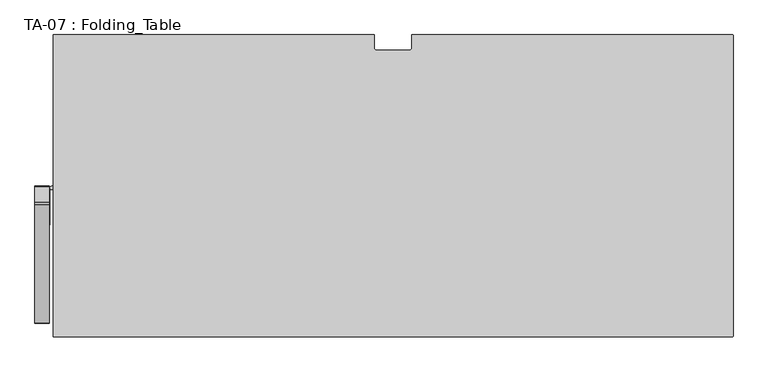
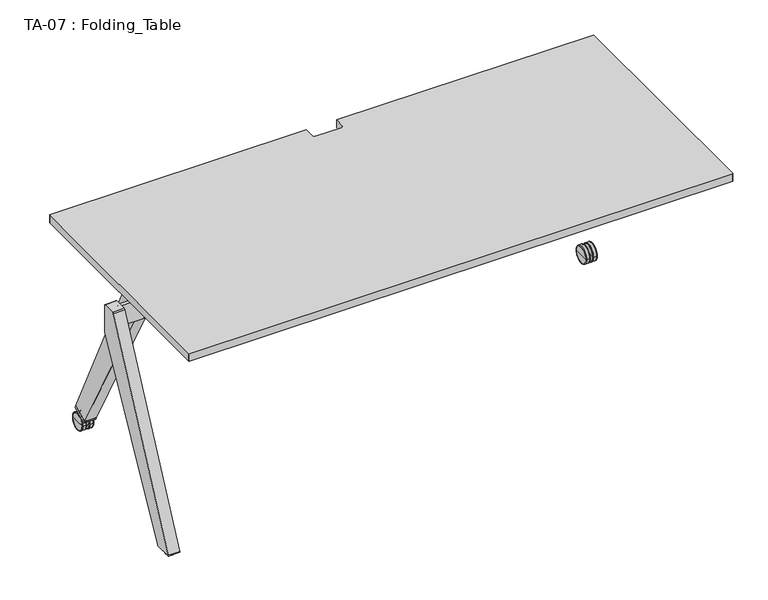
"""IFC4 building model written with IfcOpenShell, lengths in millimetres: furniture geometry, TA-07 : Folding_Table."""

from ifc_helpers import new_model, si_unit, point, frame, frame_2d, origin, place, context, project, spatial, polyline, circle_curve, ellipse_curve, trimmed, segment, composite_curve, outline, extrude, source, transform, mapped, element, save
from ifc_brep_helpers import plane_surface, cylinder_surface, revolved_surface, extruded_surface, spline_curve, advanced_brep


def ta_07_folding_table_06ad0b25(model_context):
    return source(origin(), model_context, "Body", "SolidModel", [
        extrude(outline(composite_curve([segment(trimmed(circle_curve(frame_2d((-43.5020447, 765.9866333)), 6.4993286), [point((-50.0013733, 765.9866333))], [point((-43.5020447, 759.4873047))], True, "CARTESIAN"), True, "CONTINUOUS"), segment(polyline([(-43.5020447, 759.4873047), (43.4996033, 759.4873047)]), True, "CONTINUOUS"), segment(trimmed(circle_curve(frame_2d((43.4996033, 765.9863281)), 6.4990234), [point((43.4996033, 759.4873047))], [point((49.9986267, 765.9863281))], True, "CARTESIAN"), True, "CONTINUOUS"), segment(polyline([(49.9986267, 765.9863281), (49.9986267, 800.0), (898.4629339, 800.0)]), True, "CONTINUOUS"), segment(trimmed(circle_curve(frame_2d((898.4629339, 798.4643072)), 1.5356928), [point((898.4629339, 800.0))], [point((899.9986267, 798.4643072))], False, "CARTESIAN"), True, "CONTINUOUS"), segment(polyline([(899.9986267, 798.4643072), (899.9986267, 1.5238076)]), True, "CONTINUOUS"), segment(trimmed(circle_curve(frame_2d((898.4748191, 1.5238076)), 1.5238076), [point((899.9986267, 1.5238076))], [point((898.4748191, 0.0))], False, "CARTESIAN"), True, "CONTINUOUS"), segment(polyline([(898.4748191, 0.0), (-898.455354, 0.0)]), True, "CONTINUOUS"), segment(trimmed(circle_curve(frame_2d((-898.455354, 1.5460193)), 1.5460193), [point((-898.455354, 0.0))], [point((-900.0013733, 1.5460193))], False, "CARTESIAN"), True, "CONTINUOUS"), segment(polyline([(-900.0013733, 1.5460193), (-900.0013733, 798.5330231)]), True, "CONTINUOUS"), segment(trimmed(circle_curve(frame_2d((-898.5343964, 798.5330231)), 1.4669769), [point((-900.0013733, 798.5330231))], [point((-898.5343964, 800.0))], False, "CARTESIAN"), True, "CONTINUOUS"), segment(polyline([(-898.5343964, 800.0), (-50.0013733, 800.0), (-50.0013733, 765.9866333)]), True, "CONTINUOUS")], self_intersect=False)), frame((0.0, 0.0, 694.5959473), z_axis=(0.0, 0.0, 1.0), x_axis=(1.0, 0.0, 0.0)), (0.0, 0.0, 1.0), 26.6889191),
        advanced_brep(
        [(-851.9981384, 750.0700684, 28.801899), (-837.8330994, 750.0700684, 28.801899), (-837.8330994, 696.0700684, 28.801899), (-851.9981384, 696.0700684, 28.801899), (-851.9981384, 723.0700684, 28.801899), (-837.8330994, 723.0700684, 28.801899)],
        [
            (0, 1),
            (1, 2, circle_curve(frame((-837.8330994, 723.0700684, 28.801899), z_axis=(-1.0, 0.0, 0.0), x_axis=(0.0, -1.0, 0.0)), 27.0)),
            (2, 3),
            (3, 0, circle_curve(frame((-851.9981384, 723.0700684, 28.801899), z_axis=(1.0, 0.0, 0.0), x_axis=(0.0, -1.0, 0.0)), 27.0)),
            (2, 1, circle_curve(frame((-837.8330994, 723.0700684, 28.801899), z_axis=(-1.0, 0.0, 0.0), x_axis=(0.0, -1.0, 0.0)), 27.0)),
            (0, 3, circle_curve(frame((-851.9981384, 723.0700684, 28.801899), z_axis=(1.0, 0.0, 0.0), x_axis=(0.0, -1.0, 0.0)), 27.0)),
            (4, 0),
            (3, 4),
            (1, 5),
            (5, 2),
        ],
        [
            cylinder_surface(frame((-851.9981384, 723.0700684, 28.801899), z_axis=(-1.0, 0.0, 0.0), x_axis=(0.0, -1.0, 0.0)), 27.0),
            plane_surface(frame((-851.9981384, 723.0700684, 28.801899), z_axis=(-1.0, 0.0, 0.0), x_axis=(0.0, -1.0, 0.0))),
            plane_surface(frame((-837.8330994, 723.0700684, 28.801899), z_axis=(1.0, 0.0, 0.0), x_axis=(0.0, -1.0, 0.0))),
        ],
        [
            (0, [[1, 2, 3, 4]]),
            (0, [[-3, 5, -1, 6]]),
            (1, [[7, -4, 8]]),
            (1, [[-8, -6, -7]]),
            (2, [[9, 10, -2]]),
            (2, [[-10, -9, -5]]),
        ],
    ),
        advanced_brep(
        [(-828.1639099, 750.0700684, 28.801899), (-813.9988708, 750.0700684, 28.801899), (-813.9988708, 696.0700684, 28.801899), (-828.1639099, 696.0700684, 28.801899), (-813.9988708, 723.0700684, 28.801899), (-828.1639099, 723.0700684, 28.801899)],
        [
            (0, 1),
            (1, 2, circle_curve(frame((-813.9988708, 723.0700684, 28.801899), z_axis=(-1.0, 0.0, 0.0), x_axis=(0.0, -1.0, 0.0)), 27.0)),
            (2, 3),
            (3, 0, circle_curve(frame((-828.1639099, 723.0700684, 28.801899), z_axis=(1.0, 0.0, 0.0), x_axis=(0.0, -1.0, 0.0)), 27.0)),
            (2, 1, circle_curve(frame((-813.9988708, 723.0700684, 28.801899), z_axis=(-1.0, 0.0, 0.0), x_axis=(0.0, -1.0, 0.0)), 27.0)),
            (0, 3, circle_curve(frame((-828.1639099, 723.0700684, 28.801899), z_axis=(1.0, 0.0, 0.0), x_axis=(0.0, -1.0, 0.0)), 27.0)),
            (1, 4),
            (4, 2),
            (5, 0),
            (3, 5),
        ],
        [
            cylinder_surface(frame((-813.9988708, 723.0700684, 28.801899), z_axis=(-1.0, 0.0, 0.0), x_axis=(0.0, -1.0, 0.0)), 27.0),
            plane_surface(frame((-813.9988708, 723.0700684, 28.801899), z_axis=(1.0, 0.0, 0.0), x_axis=(0.0, -1.0, 0.0))),
            plane_surface(frame((-828.1639099, 723.0700684, 28.801899), z_axis=(-1.0, 0.0, 0.0), x_axis=(0.0, -1.0, 0.0))),
        ],
        [
            (0, [[1, 2, 3, 4]]),
            (0, [[-3, 5, -1, 6]]),
            (1, [[7, 8, -2]]),
            (1, [[-8, -7, -5]]),
            (2, [[9, -4, 10]]),
            (2, [[-10, -6, -9]]),
        ],
    ),
        advanced_brep(
        [(-815.9983826, 752.2741699, 28.801899), (-813.9988708, 750.2574921, 28.801899), (-813.9988708, 695.8826447, 28.801899), (-815.9983826, 693.8659668, 28.801899), (-828.1639099, 750.2574921, 28.801899), (-828.1639099, 695.8826447, 28.801899), (-828.1639099, 751.1105391, 28.801899), (-828.1639099, 695.0295977, 28.801899), (-827.0002791, 752.2741699, 28.801899), (-827.0002791, 693.8659668, 28.801899)],
        [
            (0, 1, spline_curve(3, [(-815.9983826, 752.2741699, 28.801899), (-814.861767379, 752.04351573, 28.801899), (-814.195263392, 751.371289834, 28.801899), (-813.9988708, 750.2574921, 28.801899)], [4, 4], [0.0, 0.005636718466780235])),
            (1, 2, circle_curve(frame((-813.9988708, 723.0700684, 28.801899), z_axis=(-1.0, 0.0, 0.0), x_axis=(0.0, -1.0, 0.0)), 27.1874237)),
            (2, 3, spline_curve(3, [(-813.9988708, 695.8826447, 28.801899), (-814.195263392, 694.768846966, 28.801899), (-814.861767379, 694.09662097, 28.801899), (-815.9983826, 693.8659668, 28.801899)], [4, 4], [0.0, 0.005636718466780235])),
            (3, 0, circle_curve(frame((-815.9983826, 723.0700684, 28.801899), z_axis=(1.0, 0.0, 0.0), x_axis=(0.0, -1.0, 0.0)), 29.2041016)),
            (2, 1, circle_curve(frame((-813.9988708, 723.0700684, 28.801899), z_axis=(-1.0, 0.0, 0.0), x_axis=(0.0, -1.0, 0.0)), 27.1874237)),
            (0, 3, circle_curve(frame((-815.9983826, 723.0700684, 28.801899), z_axis=(1.0, 0.0, 0.0), x_axis=(0.0, -1.0, 0.0)), 29.2041016)),
            (1, 4),
            (4, 5, circle_curve(frame((-828.1639099, 723.0700684, 28.801899), z_axis=(-1.0, 0.0, 0.0), x_axis=(0.0, -1.0, 0.0)), 27.1874237)),
            (5, 2),
            (5, 4, circle_curve(frame((-828.1639099, 723.0700684, 28.801899), z_axis=(-1.0, 0.0, 0.0), x_axis=(0.0, -1.0, 0.0)), 27.1874237)),
            (4, 6),
            (6, 7, circle_curve(frame((-828.1639099, 723.0700684, 28.801899), z_axis=(-1.0, 0.0, 0.0), x_axis=(0.0, -1.0, 0.0)), 28.0404707)),
            (7, 5),
            (7, 6, circle_curve(frame((-828.1639099, 723.0700684, 28.801899), z_axis=(-1.0, 0.0, 0.0), x_axis=(0.0, -1.0, 0.0)), 28.0404707)),
            (6, 8, circle_curve(frame((-827.0002791, 751.1105391, 28.801899), z_axis=(0.0, 0.0, -1.0), x_axis=(-1.0, 0.0, 0.0)), 1.1636309)),
            (8, 9, circle_curve(frame((-827.0002791, 723.0700684, 28.801899), z_axis=(-1.0, 0.0, 0.0), x_axis=(0.0, -1.0, 0.0)), 29.2041016)),
            (9, 7, circle_curve(frame((-827.0002791, 695.0295977, 28.801899), z_axis=(0.0, 0.0, -1.0), x_axis=(-1.0, 0.0, 0.0)), 1.1636309)),
            (9, 8, circle_curve(frame((-827.0002791, 723.0700684, 28.801899), z_axis=(-1.0, 0.0, 0.0), x_axis=(0.0, -1.0, 0.0)), 29.2041016)),
            (8, 0),
            (3, 9),
        ],
        [
            revolved_surface(spline_curve(3, [(-813.9988708, 695.8826447, 28.801899), (-814.195263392, 694.768846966, 28.801899), (-814.861767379, 694.09662097, 28.801899), (-815.9983826, 693.8659668, 28.801899)], [4, 4], [0.0, 0.005636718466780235]), (-828.1639099, 723.0700684, 28.801899), (-1.0, 0.0, 0.0)),
            revolved_surface(polyline([(-828.1639099, 695.8826447, 28.801899), (-813.9988708, 695.8826447, 28.801899)]), (-828.1639099, 723.0700684, 28.801899), (-1.0, 0.0, 0.0)),
            plane_surface(frame((-828.1639099, 723.0700684, 28.801899), z_axis=(-1.0, 0.0, 0.0), x_axis=(0.0, -1.0, 0.0))),
            revolved_surface(trimmed(ellipse_curve(frame((-827.0002791, 695.0295977, 28.801899), z_axis=(0.0, 0.0, -1.0), x_axis=(-1.0, 0.0, 0.0)), 1.1636309, 1.1636309), [point((-827.0002791, 693.8659668, 28.801899))], [point((-828.1639099, 695.0295977, 28.801899))], True, "CARTESIAN"), (-828.1639099, 723.0700684, 28.801899), (-1.0, 0.0, 0.0)),
            cylinder_surface(frame((-828.1639099, 723.0700684, 28.801899), z_axis=(-1.0, 0.0, 0.0), x_axis=(0.0, -1.0, 0.0)), 29.2041016),
        ],
        [
            (0, [[1, 2, 3, 4]]),
            (0, [[-3, 5, -1, 6]]),
            (1, [[7, 8, 9, -2]]),
            (1, [[-9, 10, -7, -5]]),
            (2, [[11, 12, 13, -8]]),
            (2, [[-13, 14, -11, -10]]),
            (3, [[15, 16, 17, -12]]),
            (3, [[-17, 18, -15, -14]]),
            (4, [[19, -4, 20, -16]]),
            (4, [[-20, -6, -19, -18]]),
        ],
    ),
        advanced_brep(
        [(-851.9981384, 750.2574921, 28.801899), (-849.9986267, 752.2741699, 28.801899), (-849.9986267, 693.8659668, 28.801899), (-851.9981384, 695.8826447, 28.801899), (-837.8330994, 750.2574921, 28.801899), (-837.8330994, 695.8826447, 28.801899), (-837.8330994, 751.1105391, 28.801899), (-837.8330994, 695.0295977, 28.801899), (-838.9967302, 752.2741699, 28.801899), (-838.9967302, 693.8659668, 28.801899)],
        [
            (0, 1, spline_curve(3, [(-851.9981384, 750.2574921, 28.801899), (-851.801745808, 751.371289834, 28.801899), (-851.135241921, 752.04351573, 28.801899), (-849.9986267, 752.2741699, 28.801899)], [4, 4], [0.0, 0.005636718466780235])),
            (1, 2, circle_curve(frame((-849.9986267, 723.0700684, 28.801899), z_axis=(-1.0, 0.0, 0.0), x_axis=(0.0, -1.0, 0.0)), 29.2041016)),
            (2, 3, spline_curve(3, [(-849.9986267, 693.8659668, 28.801899), (-851.135241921, 694.09662097, 28.801899), (-851.801745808, 694.768846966, 28.801899), (-851.9981384, 695.8826447, 28.801899)], [4, 4], [0.0, 0.005636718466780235])),
            (3, 0, circle_curve(frame((-851.9981384, 723.0700684, 28.801899), z_axis=(1.0, 0.0, 0.0), x_axis=(0.0, -1.0, 0.0)), 27.1874237)),
            (2, 1, circle_curve(frame((-849.9986267, 723.0700684, 28.801899), z_axis=(-1.0, 0.0, 0.0), x_axis=(0.0, -1.0, 0.0)), 29.2041016)),
            (0, 3, circle_curve(frame((-851.9981384, 723.0700684, 28.801899), z_axis=(1.0, 0.0, 0.0), x_axis=(0.0, -1.0, 0.0)), 27.1874237)),
            (4, 0),
            (3, 5),
            (5, 4, circle_curve(frame((-837.8330994, 723.0700684, 28.801899), z_axis=(1.0, 0.0, 0.0), x_axis=(0.0, -1.0, 0.0)), 27.1874237)),
            (4, 5, circle_curve(frame((-837.8330994, 723.0700684, 28.801899), z_axis=(1.0, 0.0, 0.0), x_axis=(0.0, -1.0, 0.0)), 27.1874237)),
            (6, 4),
            (5, 7),
            (7, 6, circle_curve(frame((-837.8330994, 723.0700684, 28.801899), z_axis=(1.0, 0.0, 0.0), x_axis=(0.0, -1.0, 0.0)), 28.0404707)),
            (6, 7, circle_curve(frame((-837.8330994, 723.0700684, 28.801899), z_axis=(1.0, 0.0, 0.0), x_axis=(0.0, -1.0, 0.0)), 28.0404707)),
            (8, 6, circle_curve(frame((-838.9967302, 751.1105391, 28.801899), z_axis=(0.0, 0.0, -1.0), x_axis=(1.0, 0.0, 0.0)), 1.1636309)),
            (7, 9, circle_curve(frame((-838.9967302, 695.0295977, 28.801899), z_axis=(0.0, 0.0, -1.0), x_axis=(1.0, 0.0, 0.0)), 1.1636309)),
            (9, 8, circle_curve(frame((-838.9967302, 723.0700684, 28.801899), z_axis=(1.0, 0.0, 0.0), x_axis=(0.0, -1.0, 0.0)), 29.2041016)),
            (8, 9, circle_curve(frame((-838.9967302, 723.0700684, 28.801899), z_axis=(1.0, 0.0, 0.0), x_axis=(0.0, -1.0, 0.0)), 29.2041016)),
            (1, 8),
            (9, 2),
        ],
        [
            revolved_surface(spline_curve(3, [(-849.9986267, 693.8659668, 28.801899), (-851.135241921, 694.09662097, 28.801899), (-851.801745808, 694.768846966, 28.801899), (-851.9981384, 695.8826447, 28.801899)], [4, 4], [0.0, 0.005636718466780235]), (-837.8330994, 723.0700684, 28.801899), (-1.0, 0.0, 0.0)),
            revolved_surface(polyline([(-851.9981384, 695.8826447, 28.801899), (-837.8330994, 695.8826447, 28.801899)]), (-837.8330994, 723.0700684, 28.801899), (-1.0, 0.0, 0.0)),
            plane_surface(frame((-837.8330994, 723.0700684, 28.801899), z_axis=(1.0, 0.0, 0.0), x_axis=(0.0, -1.0, 0.0))),
            revolved_surface(trimmed(ellipse_curve(frame((-838.9967302, 695.0295977, 28.801899), z_axis=(0.0, 0.0, -1.0), x_axis=(1.0, 0.0, 0.0)), 1.1636309, 1.1636309), [point((-837.8330994, 695.0295977, 28.801899))], [point((-838.9967302, 693.8659668, 28.801899))], True, "CARTESIAN"), (-837.8330994, 723.0700684, 28.801899), (-1.0, 0.0, 0.0)),
            cylinder_surface(frame((-837.8330994, 723.0700684, 28.801899), z_axis=(-1.0, 0.0, 0.0), x_axis=(0.0, -1.0, 0.0)), 29.2041016),
        ],
        [
            (0, [[1, 2, 3, 4]]),
            (0, [[-3, 5, -1, 6]]),
            (1, [[7, -4, 8, 9]]),
            (1, [[-8, -6, -7, 10]]),
            (2, [[11, -9, 12, 13]]),
            (2, [[-12, -10, -11, 14]]),
            (3, [[15, -13, 16, 17]]),
            (3, [[-16, -14, -15, 18]]),
            (4, [[19, -17, 20, -2]]),
            (4, [[-20, -18, -19, -5]]),
        ],
    ),
        extrude(outline(composite_curve([segment(polyline([(411.1737873, 661.4302063), (438.8201053, 661.4302063)]), True, "CONTINUOUS"), segment(trimmed(circle_curve(frame_2d((438.8201053, 654.6957385)), 6.7344678), [point((438.8201053, 661.4302063))], [point((444.8760864, 657.6416082))], False, "CARTESIAN"), True, "CONTINUOUS"), segment(polyline([(444.8760864, 657.6416082), (503.5629913, 536.9958113)]), True, "CONTINUOUS"), segment(trimmed(circle_curve(frame_2d((501.3126315, 535.901147)), 2.5024806), [point((503.5629913, 536.9958113))], [point((501.31263, 533.3986664))], False, "CARTESIAN"), True, "CONTINUOUS"), segment(polyline([(501.31263, 533.3986664), (434.4430443, 533.3987045)]), True, "CONTINUOUS"), segment(trimmed(circle_curve(frame_2d((434.4430481, 540.1387651)), 6.7400606), [point((434.4430443, 533.3987045))], [point((428.5069657, 536.9463768))], False, "CARTESIAN"), True, "CONTINUOUS"), segment(polyline([(428.5069657, 536.9463768), (409.2078722, 572.8320514)]), True, "CONTINUOUS"), segment(trimmed(circle_curve(frame_2d((423.8997381, 580.7332459)), 16.6817205), [point((409.2078722, 572.8320514))], [point((407.2180176, 580.7332459))], False, "CARTESIAN"), True, "CONTINUOUS"), segment(polyline([(407.2180176, 580.7332459), (407.2180176, 657.4744366)]), True, "CONTINUOUS"), segment(trimmed(circle_curve(frame_2d((411.1737873, 657.4744366)), 3.9557697), [point((407.2180176, 657.4744366))], [point((411.1737873, 661.4302063))], False, "CARTESIAN"), True, "CONTINUOUS")], self_intersect=False)), frame((-813.9985657, 0.0, 0.0), z_axis=(1.0, 0.0, 0.0), x_axis=(0.0, 1.0, 0.0)), (0.0, 0.0, 1.0), 1.2182617),
        extrude(outline(composite_curve([segment(trimmed(circle_curve(frame_2d((388.8262127, 657.4744366)), 3.9557697), [point((388.8262127, 661.4302063))], [point((392.7819824, 657.4744366))], False, "CARTESIAN"), True, "CONTINUOUS"), segment(polyline([(392.7819824, 657.4744366), (392.7819824, 580.7332459)]), True, "CONTINUOUS"), segment(trimmed(circle_curve(frame_2d((376.1002619, 580.7332459)), 16.6817205), [point((392.7819824, 580.7332459))], [point((390.7921278, 572.8320514))], False, "CARTESIAN"), True, "CONTINUOUS"), segment(polyline([(390.7921278, 572.8320514), (371.4930343, 536.9463768)]), True, "CONTINUOUS"), segment(trimmed(circle_curve(frame_2d((365.5569519, 540.1387651)), 6.7400606), [point((371.4930343, 536.9463768))], [point((365.5569557, 533.3987045))], False, "CARTESIAN"), True, "CONTINUOUS"), segment(polyline([(365.5569557, 533.3987045), (298.68737, 533.3986664)]), True, "CONTINUOUS"), segment(trimmed(circle_curve(frame_2d((298.6873685, 535.901147)), 2.5024806), [point((298.68737, 533.3986664))], [point((296.4370087, 536.9958113))], False, "CARTESIAN"), True, "CONTINUOUS"), segment(polyline([(296.4370087, 536.9958113), (355.1239136, 657.6416082)]), True, "CONTINUOUS"), segment(trimmed(circle_curve(frame_2d((361.1798947, 654.6957385)), 6.7344678), [point((355.1239136, 657.6416082))], [point((361.1798947, 661.4302063))], False, "CARTESIAN"), True, "CONTINUOUS"), segment(polyline([(361.1798947, 661.4302063), (388.8262127, 661.4302063)]), True, "CONTINUOUS")], self_intersect=False)), frame((-909.9983215, 0.0, 0.0), z_axis=(1.0, 0.0, 0.0), x_axis=(0.0, 1.0, 0.0)), (0.0, 0.0, 1.0), 1.2182617),
        extrude(outline(composite_curve([segment(polyline([(-822.780304, 390.0), (-904.7715239, 390.0)]), True, "CONTINUOUS"), segment(trimmed(circle_curve(frame_2d((-904.7715239, 385.991464)), 4.008536), [point((-904.7715239, 390.0))], [point((-908.7800598, 385.991464))], True, "CARTESIAN"), True, "CONTINUOUS"), segment(polyline([(-908.7800598, 385.991464), (-909.9983215, 385.991464), (-909.9983215, 390.0)]), True, "CONTINUOUS"), segment(trimmed(circle_curve(frame_2d((-899.9983215, 390.0)), 10.0), [point((-909.9983215, 390.0))], [point((-899.9983215, 400.0))], False, "CARTESIAN"), True, "CONTINUOUS"), segment(polyline([(-899.9983215, 400.0), (-814.0065002, 400.0), (-814.0065002, 407.2180176), (-812.780304, 407.2180176), (-812.780304, 400.0)]), True, "CONTINUOUS"), segment(trimmed(circle_curve(frame_2d((-822.780304, 400.0)), 10.0), [point((-812.780304, 400.0))], [point((-822.780304, 390.0))], False, "CARTESIAN"), True, "CONTINUOUS")], self_intersect=False)), frame((0.0, 0.0, 582.8483963), z_axis=(0.0, 0.0, 1.0), x_axis=(1.0, 0.0, 0.0)), (0.0, 0.0, 1.0), 69.9998856),
        extrude(outline(composite_curve([segment(polyline([(732.3899502, 78.2882255), (735.4915767, 71.8566553)]), True, "CONTINUOUS"), segment(trimmed(circle_curve(frame_2d((734.3351562, 71.2989712)), 1.283869), [point((735.4915767, 71.8566553))], [point((734.8756253, 70.1344057))], False, "CARTESIAN"), True, "CONTINUOUS"), segment(polyline([(734.8756253, 70.1344057), (685.8796773, 47.3956317)]), True, "CONTINUOUS"), segment(trimmed(circle_curve(frame_2d((685.1821687, 48.8985752)), 1.6569119), [point((685.8796773, 47.3956317))], [point((683.7228327, 48.1139125))], False, "CARTESIAN"), True, "CONTINUOUS"), segment(polyline([(683.7228327, 48.1139125), (680.4574418, 54.186971), (732.3899502, 78.2882255)]), True, "CONTINUOUS")], self_intersect=False)), frame((-851.9984436, 0.0, 0.0), z_axis=(1.0, 0.0, 0.0), x_axis=(0.0, 1.0, 0.0)), (0.0, 0.0, 1.0), 37.9998779),
        advanced_brep(
        [(-837.8330994, 741.9613773, 37.5714478), (-837.8330994, 704.1780804, 20.0337892), (-837.8330994, 690.2764968, 49.9848002), (-837.8330994, 728.059082, 67.5213623), (-828.1639099, 741.9613773, 37.5714478), (-828.1639099, 728.059082, 67.5213623), (-828.1639099, 690.2764968, 49.9848002), (-828.1639099, 704.1780804, 20.0337892)],
        [
            (0, 1, ellipse_curve(frame((-837.8330994, 723.0698751, 28.8023033), z_axis=(-1.0, 0.0, 0.0), x_axis=(0.0, 0.9070580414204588, 0.42100559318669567)), 20.8275479, 20.7758644)),
            (1, 2),
            (2, 3),
            (3, 0),
            (4, 5),
            (5, 6),
            (6, 7),
            (7, 4, ellipse_curve(frame((-828.1639099, 723.0698751, 28.8023033), z_axis=(1.0, 0.0, 0.0), x_axis=(0.0, 0.9070580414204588, 0.42100559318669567)), 20.8275479, 20.7758644)),
            (0, 4),
            (7, 1),
            (6, 2),
            (5, 3),
        ],
        [
            plane_surface(frame((-837.8330994, 728.059082, 67.5213623), z_axis=(-1.0, 0.0, 0.0), x_axis=(0.0, -0.4210360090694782, 0.9070439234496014))),
            plane_surface(frame((-828.1639099, 728.059082, 67.5213623), z_axis=(1.0, 0.0, 0.0), x_axis=(0.0, 0.4210360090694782, -0.9070439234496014))),
            extruded_surface(trimmed(ellipse_curve(frame((-828.1639099, 723.0698751, 28.8023033), z_axis=(1.0, 0.0, 0.0), x_axis=(0.0, 0.9070580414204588, 0.42100559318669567)), 20.8275479, 20.7758644), [point((-828.1639099, 704.1780804, 20.0337892))], [point((-828.1639099, 741.9613773, 37.5714478))], True, "CARTESIAN"), (9.66918940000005, 0.0, 0.0), 9.66918940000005),
            plane_surface(frame((-837.8330994, 690.2764968, 49.9848002), z_axis=(0.0, -0.9070580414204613, -0.42100559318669), x_axis=(1.0, 0.0, 0.0))),
            plane_surface(frame((-837.8330994, 728.059082, 67.5213623), z_axis=(0.0, -0.4210055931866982, 0.9070580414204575), x_axis=(1.0, 0.0, 0.0))),
            plane_surface(frame((-837.8330994, 741.9613773, 37.5714478), z_axis=(0.0, 0.9070439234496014, 0.4210360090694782), x_axis=(1.0, 0.0, 0.0))),
        ],
        [
            (0, [[1, 2, 3, 4]]),
            (1, [[5, 6, 7, 8]]),
            (2, [[9, -8, 10, -1]]),
            (3, [[-10, -7, 11, -2]]),
            (4, [[-11, -6, 12, -3]]),
            (5, [[-12, -5, -9, -4]]),
        ],
    ),
        advanced_brep(
        [(-928.9982605, 59.3579102, 8.4972829), (-914.1130066, 59.3579102, 8.4972829), (-943.8835144, 59.3579102, 8.4972829), (-917.3508998, 59.3579102, -0.4026309), (-928.9982605, 59.3579102, -0.4026309), (-940.6456212, 59.3579102, -0.4026309), (-914.1130066, 59.3579102, 2.8352622), (-943.8835144, 59.3579102, 2.8352622)],
        [
            (0, 1),
            (1, 2, circle_curve(frame((-928.9982605, 59.3579102, 8.4972829), z_axis=(0.0, 0.0, 1.0), x_axis=(-1.0, 0.0, 0.0)), 14.8852539)),
            (2, 0),
            (2, 1, circle_curve(frame((-928.9982605, 59.3579102, 8.4972829), z_axis=(0.0, 0.0, 1.0), x_axis=(-1.0, 0.0, 0.0)), 14.8852539)),
            (3, 4),
            (4, 5),
            (5, 3, circle_curve(frame((-928.9982605, 59.3579102, -0.4026309), z_axis=(0.0, 0.0, -1.0), x_axis=(-1.0, 0.0, 0.0)), 11.6473607)),
            (3, 5, circle_curve(frame((-928.9982605, 59.3579102, -0.4026309), z_axis=(0.0, 0.0, -1.0), x_axis=(-1.0, 0.0, 0.0)), 11.6473607)),
            (6, 3, circle_curve(frame((-917.3508998, 59.3579102, 2.8352622), z_axis=(0.0, 1.0, 0.0), x_axis=(1.0, 0.0, 0.0)), 3.2378932)),
            (5, 7, circle_curve(frame((-940.6456212, 59.3579102, 2.8352622), z_axis=(0.0, 1.0, 0.0), x_axis=(-1.0, 0.0, 0.0)), 3.2378932)),
            (7, 6, circle_curve(frame((-928.9982605, 59.3579102, 2.8352622), z_axis=(0.0, 0.0, -1.0), x_axis=(-1.0, 0.0, 0.0)), 14.8852539)),
            (6, 7, circle_curve(frame((-928.9982605, 59.3579102, 2.8352622), z_axis=(0.0, 0.0, -1.0), x_axis=(-1.0, 0.0, 0.0)), 14.8852539)),
            (1, 6),
            (7, 2),
        ],
        [
            plane_surface(frame((-928.9982605, 59.3579102, 8.4972829), z_axis=(0.0, 0.0, 1.0), x_axis=(-1.0, 0.0, 0.0))),
            plane_surface(frame((-928.9982605, 59.3579102, -0.4026309), z_axis=(0.0, 0.0, -1.0), x_axis=(-1.0, 0.0, 0.0))),
            revolved_surface(trimmed(ellipse_curve(frame((-940.6456212, 59.3579102, 2.8352622), z_axis=(0.0, 1.0, 0.0), x_axis=(-1.0, 0.0, 0.0)), 3.2378932, 3.2378932), [point((-940.6456212, 59.3579102, -0.402631))], [point((-943.8835144, 59.3579102, 2.8352622))], True, "CARTESIAN"), (-928.9982605, 59.3579102, 2.5970915), (0.0, 0.0, 1.0)),
            cylinder_surface(frame((-928.9982605, 59.3579102, 2.5970915), z_axis=(0.0, 0.0, 1.0), x_axis=(-1.0, 0.0, 0.0)), 14.8852539),
        ],
        [
            (0, [[1, 2, 3]]),
            (0, [[-3, 4, -1]]),
            (1, [[5, 6, 7]]),
            (1, [[-6, -5, 8]]),
            (2, [[9, -7, 10, 11]]),
            (2, [[-10, -8, -9, 12]]),
            (3, [[13, -11, 14, -2]]),
            (3, [[-14, -12, -13, -4]]),
        ],
    ),
        extrude(outline(composite_curve([segment(polyline([(448.9448302, 666.043462), (731.8239283, 79.4619355)]), True, "CONTINUOUS"), segment(trimmed(circle_curve(frame_2d((730.6675078, 78.9042514)), 1.283869), [point((731.8239283, 79.4619355))], [point((731.2079702, 77.7396827))], False, "CARTESIAN"), True, "CONTINUOUS"), segment(polyline([(731.2079702, 77.7396827), (681.8744713, 54.8445974)]), True, "CONTINUOUS"), segment(trimmed(circle_curve(frame_2d((681.1769714, 56.3475449)), 1.6569119), [point((681.8744713, 54.8445974))], [point((679.7176354, 55.5628822))], False, "CARTESIAN"), True, "CONTINUOUS"), segment(polyline([(679.7176354, 55.5628822), (401.1924346, 573.5712652)]), True, "CONTINUOUS"), segment(trimmed(circle_curve(frame_2d((410.0, 578.3069586)), 10.0), [point((401.1924346, 573.5712652))], [point((400.0, 578.3069586))], False, "CARTESIAN"), True, "CONTINUOUS"), segment(polyline([(400.0, 578.3069586), (400.0, 665.6302809)]), True, "CONTINUOUS"), segment(trimmed(circle_curve(frame_2d((403.017943, 665.6302809)), 3.017943), [point((400.0, 665.6302809))], [point((403.017943, 668.6482239))], False, "CARTESIAN"), True, "CONTINUOUS"), segment(polyline([(403.017943, 668.6482239), (444.7968515, 668.6482239)]), True, "CONTINUOUS"), segment(trimmed(circle_curve(frame_2d((444.7968515, 664.0430982)), 4.6051256), [point((444.7968515, 668.6482239))], [point((448.9448302, 666.043462))], False, "CARTESIAN"), True, "CONTINUOUS")], self_intersect=False)), frame((-851.9984436, 0.0, 0.0), z_axis=(1.0, 0.0, 0.0), x_axis=(0.0, 1.0, 0.0)), (0.0, 0.0, 1.0), 37.9998779),
        extrude(outline(composite_curve([segment(trimmed(circle_curve(frame_2d((355.2031485, 664.0430982)), 4.6051256), [point((351.0551698, 666.043462))], [point((355.2031485, 668.6482239))], False, "CARTESIAN"), True, "CONTINUOUS"), segment(polyline([(355.2031485, 668.6482239), (396.982057, 668.6482239)]), True, "CONTINUOUS"), segment(trimmed(circle_curve(frame_2d((396.982057, 665.6302809)), 3.017943), [point((396.982057, 668.6482239))], [point((400.0, 665.6302809))], False, "CARTESIAN"), True, "CONTINUOUS"), segment(polyline([(400.0, 665.6302809), (400.0, 578.3069586)]), True, "CONTINUOUS"), segment(trimmed(circle_curve(frame_2d((390.0, 578.3069586)), 10.0), [point((400.0, 578.3069586))], [point((398.8075654, 573.5712652))], False, "CARTESIAN"), True, "CONTINUOUS"), segment(polyline([(398.8075654, 573.5712652), (96.3518994, 11.0563832)]), True, "CONTINUOUS"), segment(trimmed(circle_curve(frame_2d((92.0703397, 13.3585124)), 4.8612295), [point((96.3518994, 11.0563832))], [point((92.0703429, 8.4972829))], False, "CARTESIAN"), True, "CONTINUOUS"), segment(polyline([(92.0703429, 8.4972829), (36.9167243, 8.4972471)]), True, "CONTINUOUS"), segment(trimmed(circle_curve(frame_2d((36.9167231, 10.3581362)), 1.8608892), [point((36.9167243, 8.4972471))], [point((35.2405628, 11.166465))], False, "CARTESIAN"), True, "CONTINUOUS"), segment(polyline([(35.2405628, 11.166465), (351.0551698, 666.043462)]), True, "CONTINUOUS")], self_intersect=False)), frame((-947.9985046, 0.0, 0.0), z_axis=(1.0, 0.0, 0.0), x_axis=(0.0, 1.0, 0.0)), (0.0, 0.0, 1.0), 38.0001831),
        advanced_brep(
        [(837.8330994, 750.0700684, 28.801899), (851.9981384, 750.0700684, 28.801899), (851.9981384, 696.0700684, 28.801899), (837.8330994, 696.0700684, 28.801899), (851.9981384, 723.0700684, 28.801899), (837.8330994, 723.0700684, 28.801899)],
        [
            (0, 1),
            (1, 2, circle_curve(frame((851.9981384, 723.0700684, 28.801899), z_axis=(-1.0, 0.0, 0.0), x_axis=(0.0, -1.0, 0.0)), 27.0)),
            (2, 3),
            (3, 0, circle_curve(frame((837.8330994, 723.0700684, 28.801899), z_axis=(1.0, 0.0, 0.0), x_axis=(0.0, -1.0, 0.0)), 27.0)),
            (2, 1, circle_curve(frame((851.9981384, 723.0700684, 28.801899), z_axis=(-1.0, 0.0, 0.0), x_axis=(0.0, -1.0, 0.0)), 27.0)),
            (0, 3, circle_curve(frame((837.8330994, 723.0700684, 28.801899), z_axis=(1.0, 0.0, 0.0), x_axis=(0.0, -1.0, 0.0)), 27.0)),
            (1, 4),
            (4, 2),
            (5, 0),
            (3, 5),
        ],
        [
            cylinder_surface(frame((851.9981384, 723.0700684, 28.801899), z_axis=(-1.0, 0.0, 0.0), x_axis=(0.0, -1.0, 0.0)), 27.0),
            plane_surface(frame((851.9981384, 723.0700684, 28.801899), z_axis=(1.0, 0.0, 0.0), x_axis=(0.0, -1.0, 0.0))),
            plane_surface(frame((837.8330994, 723.0700684, 28.801899), z_axis=(-1.0, 0.0, 0.0), x_axis=(0.0, -1.0, 0.0))),
        ],
        [
            (0, [[1, 2, 3, 4]]),
            (0, [[-3, 5, -1, 6]]),
            (1, [[7, 8, -2]]),
            (1, [[-8, -7, -5]]),
            (2, [[9, -4, 10]]),
            (2, [[-10, -6, -9]]),
        ],
    ),
        advanced_brep(
        [(813.9988708, 750.0700684, 28.801899), (828.1639099, 750.0700684, 28.801899), (828.1639099, 696.0700684, 28.801899), (813.9988708, 696.0700684, 28.801899), (813.9988708, 723.0700684, 28.801899), (828.1639099, 723.0700684, 28.801899)],
        [
            (0, 1),
            (1, 2, circle_curve(frame((828.1639099, 723.0700684, 28.801899), z_axis=(-1.0, 0.0, 0.0), x_axis=(0.0, -1.0, 0.0)), 27.0)),
            (2, 3),
            (3, 0, circle_curve(frame((813.9988708, 723.0700684, 28.801899), z_axis=(1.0, 0.0, 0.0), x_axis=(0.0, -1.0, 0.0)), 27.0)),
            (2, 1, circle_curve(frame((828.1639099, 723.0700684, 28.801899), z_axis=(-1.0, 0.0, 0.0), x_axis=(0.0, -1.0, 0.0)), 27.0)),
            (0, 3, circle_curve(frame((813.9988708, 723.0700684, 28.801899), z_axis=(1.0, 0.0, 0.0), x_axis=(0.0, -1.0, 0.0)), 27.0)),
            (4, 0),
            (3, 4),
            (1, 5),
            (5, 2),
        ],
        [
            cylinder_surface(frame((813.9988708, 723.0700684, 28.801899), z_axis=(-1.0, 0.0, 0.0), x_axis=(0.0, -1.0, 0.0)), 27.0),
            plane_surface(frame((813.9988708, 723.0700684, 28.801899), z_axis=(-1.0, 0.0, 0.0), x_axis=(0.0, -1.0, 0.0))),
            plane_surface(frame((828.1639099, 723.0700684, 28.801899), z_axis=(1.0, 0.0, 0.0), x_axis=(0.0, -1.0, 0.0))),
        ],
        [
            (0, [[1, 2, 3, 4]]),
            (0, [[-3, 5, -1, 6]]),
            (1, [[7, -4, 8]]),
            (1, [[-8, -6, -7]]),
            (2, [[9, 10, -2]]),
            (2, [[-10, -9, -5]]),
        ],
    ),
        advanced_brep(
        [(813.9988708, 750.2574921, 28.801899), (815.9983826, 752.2741699, 28.801899), (815.9983826, 693.8659668, 28.801899), (813.9988708, 695.8826447, 28.801899), (828.1639099, 750.2574921, 28.801899), (828.1639099, 695.8826447, 28.801899), (828.1639099, 751.1105391, 28.801899), (828.1639099, 695.0295977, 28.801899), (827.0002791, 752.2741699, 28.801899), (827.0002791, 693.8659668, 28.801899)],
        [
            (0, 1, spline_curve(3, [(813.9988708, 750.2574921, 28.801899), (814.195263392, 751.371289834, 28.801899), (814.861767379, 752.04351573, 28.801899), (815.9983826, 752.2741699, 28.801899)], [4, 4], [0.0, 0.005636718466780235])),
            (1, 2, circle_curve(frame((815.9983826, 723.0700684, 28.801899), z_axis=(-1.0, 0.0, 0.0), x_axis=(0.0, -1.0, 0.0)), 29.2041016)),
            (2, 3, spline_curve(3, [(815.9983826, 693.8659668, 28.801899), (814.861767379, 694.09662097, 28.801899), (814.195263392, 694.768846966, 28.801899), (813.9988708, 695.8826447, 28.801899)], [4, 4], [0.0, 0.005636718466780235])),
            (3, 0, circle_curve(frame((813.9988708, 723.0700684, 28.801899), z_axis=(1.0, 0.0, 0.0), x_axis=(0.0, -1.0, 0.0)), 27.1874237)),
            (2, 1, circle_curve(frame((815.9983826, 723.0700684, 28.801899), z_axis=(-1.0, 0.0, 0.0), x_axis=(0.0, -1.0, 0.0)), 29.2041016)),
            (0, 3, circle_curve(frame((813.9988708, 723.0700684, 28.801899), z_axis=(1.0, 0.0, 0.0), x_axis=(0.0, -1.0, 0.0)), 27.1874237)),
            (4, 0),
            (3, 5),
            (5, 4, circle_curve(frame((828.1639099, 723.0700684, 28.801899), z_axis=(1.0, 0.0, 0.0), x_axis=(0.0, -1.0, 0.0)), 27.1874237)),
            (4, 5, circle_curve(frame((828.1639099, 723.0700684, 28.801899), z_axis=(1.0, 0.0, 0.0), x_axis=(0.0, -1.0, 0.0)), 27.1874237)),
            (6, 4),
            (5, 7),
            (7, 6, circle_curve(frame((828.1639099, 723.0700684, 28.801899), z_axis=(1.0, 0.0, 0.0), x_axis=(0.0, -1.0, 0.0)), 28.0404707)),
            (6, 7, circle_curve(frame((828.1639099, 723.0700684, 28.801899), z_axis=(1.0, 0.0, 0.0), x_axis=(0.0, -1.0, 0.0)), 28.0404707)),
            (8, 6, circle_curve(frame((827.0002791, 751.1105391, 28.801899), z_axis=(0.0, 0.0, -1.0), x_axis=(1.0, 0.0, 0.0)), 1.1636309)),
            (7, 9, circle_curve(frame((827.0002791, 695.0295977, 28.801899), z_axis=(0.0, 0.0, -1.0), x_axis=(1.0, 0.0, 0.0)), 1.1636309)),
            (9, 8, circle_curve(frame((827.0002791, 723.0700684, 28.801899), z_axis=(1.0, 0.0, 0.0), x_axis=(0.0, -1.0, 0.0)), 29.2041016)),
            (8, 9, circle_curve(frame((827.0002791, 723.0700684, 28.801899), z_axis=(1.0, 0.0, 0.0), x_axis=(0.0, -1.0, 0.0)), 29.2041016)),
            (1, 8),
            (9, 2),
        ],
        [
            revolved_surface(spline_curve(3, [(815.9983826, 693.8659668, 28.801899), (814.861767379, 694.09662097, 28.801899), (814.195263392, 694.768846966, 28.801899), (813.9988708, 695.8826447, 28.801899)], [4, 4], [0.0, 0.005636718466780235]), (828.1639099, 723.0700684, 28.801899), (-1.0, 0.0, 0.0)),
            revolved_surface(polyline([(813.9988708, 695.8826447, 28.801899), (828.1639099, 695.8826447, 28.801899)]), (828.1639099, 723.0700684, 28.801899), (-1.0, 0.0, 0.0)),
            plane_surface(frame((828.1639099, 723.0700684, 28.801899), z_axis=(1.0, 0.0, 0.0), x_axis=(0.0, -1.0, 0.0))),
            revolved_surface(trimmed(ellipse_curve(frame((827.0002791, 695.0295977, 28.801899), z_axis=(0.0, 0.0, -1.0), x_axis=(1.0, 0.0, 0.0)), 1.1636309, 1.1636309), [point((828.1639099, 695.0295977, 28.801899))], [point((827.0002791, 693.8659668, 28.801899))], True, "CARTESIAN"), (828.1639099, 723.0700684, 28.801899), (-1.0, 0.0, 0.0)),
            cylinder_surface(frame((828.1639099, 723.0700684, 28.801899), z_axis=(-1.0, 0.0, 0.0), x_axis=(0.0, -1.0, 0.0)), 29.2041016),
        ],
        [
            (0, [[1, 2, 3, 4]]),
            (0, [[-3, 5, -1, 6]]),
            (1, [[7, -4, 8, 9]]),
            (1, [[-8, -6, -7, 10]]),
            (2, [[11, -9, 12, 13]]),
            (2, [[-12, -10, -11, 14]]),
            (3, [[15, -13, 16, 17]]),
            (3, [[-16, -14, -15, 18]]),
            (4, [[19, -17, 20, -2]]),
            (4, [[-20, -18, -19, -5]]),
        ],
    ),
        advanced_brep(
        [(849.9986267, 752.2741699, 28.801899), (851.9981384, 750.2574921, 28.801899), (851.9981384, 695.8826447, 28.801899), (849.9986267, 693.8659668, 28.801899), (837.8330994, 750.2574921, 28.801899), (837.8330994, 695.8826447, 28.801899), (837.8330994, 751.1105391, 28.801899), (837.8330994, 695.0295977, 28.801899), (838.9967302, 752.2741699, 28.801899), (838.9967302, 693.8659668, 28.801899)],
        [
            (0, 1, spline_curve(3, [(849.9986267, 752.2741699, 28.801899), (851.135241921, 752.04351573, 28.801899), (851.801745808, 751.371289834, 28.801899), (851.9981384, 750.2574921, 28.801899)], [4, 4], [0.0, 0.005636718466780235])),
            (1, 2, circle_curve(frame((851.9981384, 723.0700684, 28.801899), z_axis=(-1.0, 0.0, 0.0), x_axis=(0.0, -1.0, 0.0)), 27.1874237)),
            (2, 3, spline_curve(3, [(851.9981384, 695.8826447, 28.801899), (851.801745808, 694.768846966, 28.801899), (851.135241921, 694.09662097, 28.801899), (849.9986267, 693.8659668, 28.801899)], [4, 4], [0.0, 0.005636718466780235])),
            (3, 0, circle_curve(frame((849.9986267, 723.0700684, 28.801899), z_axis=(1.0, 0.0, 0.0), x_axis=(0.0, -1.0, 0.0)), 29.2041016)),
            (2, 1, circle_curve(frame((851.9981384, 723.0700684, 28.801899), z_axis=(-1.0, 0.0, 0.0), x_axis=(0.0, -1.0, 0.0)), 27.1874237)),
            (0, 3, circle_curve(frame((849.9986267, 723.0700684, 28.801899), z_axis=(1.0, 0.0, 0.0), x_axis=(0.0, -1.0, 0.0)), 29.2041016)),
            (1, 4),
            (4, 5, circle_curve(frame((837.8330994, 723.0700684, 28.801899), z_axis=(-1.0, 0.0, 0.0), x_axis=(0.0, -1.0, 0.0)), 27.1874237)),
            (5, 2),
            (5, 4, circle_curve(frame((837.8330994, 723.0700684, 28.801899), z_axis=(-1.0, 0.0, 0.0), x_axis=(0.0, -1.0, 0.0)), 27.1874237)),
            (4, 6),
            (6, 7, circle_curve(frame((837.8330994, 723.0700684, 28.801899), z_axis=(-1.0, 0.0, 0.0), x_axis=(0.0, -1.0, 0.0)), 28.0404707)),
            (7, 5),
            (7, 6, circle_curve(frame((837.8330994, 723.0700684, 28.801899), z_axis=(-1.0, 0.0, 0.0), x_axis=(0.0, -1.0, 0.0)), 28.0404707)),
            (6, 8, circle_curve(frame((838.9967302, 751.1105391, 28.801899), z_axis=(0.0, 0.0, -1.0), x_axis=(-1.0, 0.0, 0.0)), 1.1636309)),
            (8, 9, circle_curve(frame((838.9967302, 723.0700684, 28.801899), z_axis=(-1.0, 0.0, 0.0), x_axis=(0.0, -1.0, 0.0)), 29.2041016)),
            (9, 7, circle_curve(frame((838.9967302, 695.0295977, 28.801899), z_axis=(0.0, 0.0, -1.0), x_axis=(-1.0, 0.0, 0.0)), 1.1636309)),
            (9, 8, circle_curve(frame((838.9967302, 723.0700684, 28.801899), z_axis=(-1.0, 0.0, 0.0), x_axis=(0.0, -1.0, 0.0)), 29.2041016)),
            (8, 0),
            (3, 9),
        ],
        [
            revolved_surface(spline_curve(3, [(851.9981384, 695.8826447, 28.801899), (851.801745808, 694.768846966, 28.801899), (851.135241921, 694.09662097, 28.801899), (849.9986267, 693.8659668, 28.801899)], [4, 4], [0.0, 0.005636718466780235]), (837.8330994, 723.0700684, 28.801899), (-1.0, 0.0, 0.0)),
            revolved_surface(polyline([(837.8330994, 695.8826447, 28.801899), (851.9981384, 695.8826447, 28.801899)]), (837.8330994, 723.0700684, 28.801899), (-1.0, 0.0, 0.0)),
            plane_surface(frame((837.8330994, 723.0700684, 28.801899), z_axis=(-1.0, 0.0, 0.0), x_axis=(0.0, -1.0, 0.0))),
            revolved_surface(trimmed(ellipse_curve(frame((838.9967302, 695.0295977, 28.801899), z_axis=(0.0, 0.0, -1.0), x_axis=(-1.0, 0.0, 0.0)), 1.1636309, 1.1636309), [point((838.9967302, 693.8659668, 28.801899))], [point((837.8330994, 695.0295977, 28.801899))], True, "CARTESIAN"), (837.8330994, 723.0700684, 28.801899), (-1.0, 0.0, 0.0)),
            cylinder_surface(frame((837.8330994, 723.0700684, 28.801899), z_axis=(-1.0, 0.0, 0.0), x_axis=(0.0, -1.0, 0.0)), 29.2041016),
        ],
        [
            (0, [[1, 2, 3, 4]]),
            (0, [[-3, 5, -1, 6]]),
            (1, [[7, 8, 9, -2]]),
            (1, [[-9, 10, -7, -5]]),
            (2, [[11, 12, 13, -8]]),
            (2, [[-13, 14, -11, -10]]),
            (3, [[15, 16, 17, -12]]),
            (3, [[-17, 18, -15, -14]]),
            (4, [[19, -4, 20, -16]]),
            (4, [[-20, -6, -19, -18]]),
        ],
    ),
        advanced_brep(
        [(-786.9972229, 600.0, 692.5959015), (-786.9972229, 600.0, 680.1652766), (-788.9970398, 600.0, 680.1652766), (-788.9970398, 600.0, 694.5959473), (-752.0973206, 600.0, 694.5959473), (-752.0973206, 600.0, 680.1652766), (-754.0971375, 600.0, 680.1652766), (-754.0971375, 600.0, 692.5959015), (-754.0971375, 200.0, 692.5959015), (-754.0971375, 200.0, 680.164896), (-752.0973206, 200.0, 680.164896), (-752.0973206, 200.0, 694.5959473), (-788.9970398, 200.0, 694.5959473), (-788.9970398, 200.0, 680.164896), (-786.9972229, 200.0, 680.164896), (-786.9972229, 200.0, 692.5959015), (-752.0973206, 420.0, 636.0191727), (-752.0973206, 591.9583135, 670.3589007), (-752.0973206, 208.0417176, 670.3585139), (-752.0973206, 380.0011244, 636.0191345), (-754.0971375, 420.0, 636.0191727), (-754.0971375, 380.0011244, 636.0191345), (-754.0971375, 208.0417176, 670.3585139), (-754.0971375, 591.9583135, 670.3589007), (-788.9970398, 420.0, 636.0191727), (-788.9970398, 380.0011244, 636.0191345), (-788.9970398, 208.0417176, 670.3585139), (-788.9970398, 591.9583135, 670.3589007), (-786.9972229, 420.0, 636.0191727), (-786.9972229, 591.9583135, 670.3589007), (-786.9972229, 208.0417176, 670.3585139), (-786.9972229, 380.0011244, 636.0191345)],
        [
            (0, 1),
            (1, 2),
            (2, 3),
            (3, 4),
            (4, 5),
            (5, 6),
            (6, 7),
            (7, 0),
            (8, 9),
            (9, 10),
            (10, 11),
            (11, 12),
            (12, 13),
            (13, 14),
            (14, 15),
            (15, 8),
            (3, 12),
            (11, 4),
            (7, 8),
            (15, 0),
            (16, 17),
            (17, 5, circle_curve(frame((-752.0973206, 590.0, 680.1652766), z_axis=(1.0, 0.0, 0.0), x_axis=(0.0, -1.0, 0.0)), 10.0)),
            (10, 18, circle_curve(frame((-752.0973206, 210.0, 680.164896), z_axis=(1.0, 0.0, 0.0), x_axis=(0.0, -1.0, 0.0)), 10.0)),
            (18, 19),
            (19, 16),
            (20, 21),
            (21, 22),
            (22, 9, circle_curve(frame((-754.0971375, 210.0, 680.164896), z_axis=(-1.0, 0.0, 0.0), x_axis=(0.0, -1.0, 0.0)), 10.0)),
            (6, 23, circle_curve(frame((-754.0971375, 590.0, 680.1652766), z_axis=(-1.0, 0.0, 0.0), x_axis=(0.0, -1.0, 0.0)), 10.0)),
            (23, 20),
            (19, 21),
            (20, 16),
            (18, 22),
            (17, 23),
            (24, 25),
            (25, 26),
            (26, 13, circle_curve(frame((-788.9970398, 210.0, 680.164896), z_axis=(-1.0, 0.0, 0.0), x_axis=(0.0, -1.0, 0.0)), 10.0)),
            (2, 27, circle_curve(frame((-788.9970398, 590.0, 680.1652766), z_axis=(-1.0, 0.0, 0.0), x_axis=(0.0, -1.0, 0.0)), 10.0)),
            (27, 24),
            (28, 29),
            (29, 1, circle_curve(frame((-786.9972229, 590.0, 680.1652766), z_axis=(1.0, 0.0, 0.0), x_axis=(0.0, -1.0, 0.0)), 10.0)),
            (14, 30, circle_curve(frame((-786.9972229, 210.0, 680.164896), z_axis=(1.0, 0.0, 0.0), x_axis=(0.0, -1.0, 0.0)), 10.0)),
            (30, 31),
            (31, 28),
            (24, 28),
            (31, 25),
            (30, 26),
            (29, 27),
        ],
        [
            plane_surface(frame((-754.0971375, 600.0, 694.5959473), z_axis=(0.0, 1.0, 0.0), x_axis=(-1.0, 0.0, 0.0))),
            plane_surface(frame((-754.0971375, 200.0, 694.5959473), z_axis=(0.0, -1.0, 0.0), x_axis=(1.0, 0.0, 0.0))),
            plane_surface(frame((-786.9972229, 200.0, 694.5959473), z_axis=(0.0, 0.0, 1.0), x_axis=(0.0, 1.0, 0.0))),
            plane_surface(frame((-754.0971375, 200.0, 692.5959015), z_axis=(0.0, 0.0, -1.0), x_axis=(0.0, 1.0, 0.0))),
            plane_surface(frame((-752.0973206, 380.0, 636.0191345), z_axis=(1.0, 0.0, 0.0), x_axis=(0.0, -0.9999999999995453, -9.536743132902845e-07))),
            plane_surface(frame((-754.0971375, 380.0, 636.0191345), z_axis=(-1.0, 0.0, 0.0), x_axis=(0.0, 0.9999999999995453, 9.536743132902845e-07))),
            plane_surface(frame((-752.0973206, 420.0, 636.0191727), z_axis=(0.0, 9.536743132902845e-07, -0.9999999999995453), x_axis=(-1.0, 0.0, 0.0))),
            plane_surface(frame((-752.0973206, 380.0011244, 636.0191345), z_axis=(0.0, -0.1958282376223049, -0.9806382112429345), x_axis=(-1.0, 0.0, 0.0))),
            cylinder_surface(frame((-754.0971375, 210.0, 680.164896), z_axis=(1.0, 0.0, 0.0), x_axis=(0.0, -1.0, 0.0)), 10.0),
            cylinder_surface(frame((-754.0971375, 590.0, 680.1652766), z_axis=(1.0, 0.0, 0.0), x_axis=(0.0, -1.0, 0.0)), 10.0),
            plane_surface(frame((-752.0973206, 591.9583135, 670.3589007), z_axis=(0.0, 0.1958313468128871, -0.9806375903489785), x_axis=(-1.0, 0.0, 0.0))),
            plane_surface(frame((-788.9970398, 592.1557617, 670.3983307), z_axis=(-1.0000000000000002, 0.0, 0.0), x_axis=(0.0, 0.9806375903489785, 0.1958313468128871))),
            plane_surface(frame((-786.9972229, 592.1557617, 670.3983307), z_axis=(1.0000000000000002, 0.0, 0.0), x_axis=(0.0, -0.9806375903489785, -0.1958313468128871))),
            plane_surface(frame((-788.9970398, 380.0011244, 636.0191345), z_axis=(0.0, 9.536743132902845e-07, -0.9999999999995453), x_axis=(1.0, 0.0, 0.0))),
            plane_surface(frame((-788.9970398, 208.0417176, 670.3585139), z_axis=(0.0, -0.1958282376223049, -0.9806382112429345), x_axis=(1.0, 0.0, 0.0))),
            cylinder_surface(frame((-786.9972229, 210.0, 680.164896), z_axis=(-1.0, 0.0, 0.0), x_axis=(0.0, -1.0, 0.0)), 10.0),
            cylinder_surface(frame((-786.9972229, 590.0, 680.1652766), z_axis=(-1.0, 0.0, 0.0), x_axis=(0.0, -1.0, 0.0)), 10.0),
            plane_surface(frame((-788.9970398, 420.0, 636.0191727), z_axis=(0.0, 0.1958313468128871, -0.9806375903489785), x_axis=(1.0, 0.0, 0.0))),
        ],
        [
            (0, [[1, 2, 3, 4, 5, 6, 7, 8]]),
            (1, [[9, 10, 11, 12, 13, 14, 15, 16]]),
            (2, [[17, -12, 18, -4]]),
            (3, [[19, -16, 20, -8]]),
            (4, [[21, 22, -5, -18, -11, 23, 24, 25]]),
            (5, [[26, 27, 28, -9, -19, -7, 29, 30]]),
            (6, [[31, -26, 32, -25]]),
            (7, [[33, -27, -31, -24]]),
            (8, [[-10, -28, -33, -23]]),
            (9, [[34, -29, -6, -22]]),
            (10, [[-32, -30, -34, -21]]),
            (11, [[35, 36, 37, -13, -17, -3, 38, 39]]),
            (12, [[40, 41, -1, -20, -15, 42, 43, 44]]),
            (13, [[45, -44, 46, -35]]),
            (14, [[-46, -43, 47, -36]]),
            (15, [[-47, -42, -14, -37]]),
            (16, [[-2, -41, 48, -38]]),
            (17, [[-48, -40, -45, -39]]),
        ],
    ),
        extrude(outline(polyline([(287.956543, 654.3999481), (355.925293, 640.8269501), (355.925293, 638.8269806), (287.956543, 652.3999786), (287.956543, 654.3999481)])), frame((-788.9970398, 0.0, 0.0), z_axis=(1.0, 0.0, 0.0), x_axis=(0.0, 1.0, 0.0)), (0.0, 0.0, 1.0), 36.8997192),
        extrude(outline(composite_curve([segment(polyline([(200.0, 692.5959015), (200.0, 680.164896)]), True, "CONTINUOUS"), segment(trimmed(circle_curve(frame_2d((210.0, 680.164896)), 10.0), [point((200.0, 680.164896))], [point((208.0417176, 670.3585139))], True, "CARTESIAN"), True, "CONTINUOUS"), segment(polyline([(208.0417176, 670.3585139), (271.2817383, 657.729818), (271.2817383, 656.7108248), (207.7511244, 669.4004388)]), True, "CONTINUOUS"), segment(trimmed(circle_curve(frame_2d((209.8817981, 680.0676671)), 10.8779378), [point((207.7511244, 669.4004388))], [point((199.0038608, 680.0645277))], False, "CARTESIAN"), True, "CONTINUOUS"), segment(polyline([(199.0038608, 680.0645277), (199.0002441, 692.5959015), (200.0, 692.5959015)]), True, "CONTINUOUS")], self_intersect=False)), frame((-786.9972229, 0.0, 0.0), z_axis=(1.0, 0.0, 0.0), x_axis=(0.0, 1.0, 0.0)), (0.0, 0.0, 1.0), 32.9000854),
        extrude(outline(polyline([(452.5708008, 615.4007339), (457.8649902, 594.0221024), (456.6023328, 593.2604712), (440.4321023, 605.80503), (431.9549873, 605.80503), (415.8666992, 593.2231903), (414.5422363, 594.0221024), (419.8364258, 615.4007339), (410.1049805, 660.1964569), (411.9262695, 692.5959015), (460.480957, 692.5959015), (462.3022461, 660.1964569), (452.5708008, 615.4007339)])), frame((-776.6947937, 0.0, 0.0), z_axis=(1.0, 0.0, 0.0), x_axis=(0.0, 1.0, 0.0)), (0.0, 0.0, 1.0), 11.3989258),
        extrude(outline(composite_curve([segment(trimmed(circle_curve(frame_2d((402.2230265, 605.4761762)), 8.8086575), [point((410.0929386, 601.5192922))], [point((402.2230265, 596.6675186))], False, "CARTESIAN"), True, "CONTINUOUS"), segment(polyline([(402.2230265, 596.6675186), (394.7775739, 596.6675186)]), True, "CONTINUOUS"), segment(trimmed(circle_curve(frame_2d((394.7775739, 607.8106111)), 11.1430925), [point((394.7775739, 596.6675186))], [point((386.0443302, 600.8897033))], False, "CARTESIAN"), True, "CONTINUOUS"), segment(polyline([(386.0443302, 600.8897033), (313.3691406, 692.5959015), (455.8850098, 692.5959015), (410.0929386, 601.5192922)]), True, "CONTINUOUS")], self_intersect=False)), frame((-786.9972229, 0.0, 0.0), z_axis=(1.0, 0.0, 0.0), x_axis=(0.0, 1.0, 0.0)), (0.0, 0.0, 1.0), 32.9000854),
        extrude(outline(polyline([(390.6726074, 694.5959473), (409.3273926, 694.5959473), (409.3273926, 646.88591), (408.4484863, 644.7647858), (406.328125, 643.8861847), (393.671875, 643.8861847), (391.5515137, 644.7647858), (390.6726074, 646.88591), (390.6726074, 694.5959473)])), frame((-752.1003723, 0.0, 0.0), z_axis=(1.0, 0.0, 0.0), x_axis=(0.0, 1.0, 0.0)), (0.0, 0.0, 1.0), 1504.1976929),
        extrude(outline(polyline([(374.5214844, 685.1154327), (373.7719727, 684.3654633), (366.2280273, 684.3654633), (365.4785156, 685.1154327), (365.4785156, 694.5959473), (374.5214844, 694.5959473), (374.5214844, 685.1154327)])), frame((-752.1003723, 0.0, 0.0), z_axis=(1.0, 0.0, 0.0), x_axis=(0.0, 1.0, 0.0)), (0.0, 0.0, 1.0), 1504.1976929),
        extrude(outline(polyline([(287.956543, 654.3999481), (355.925293, 640.8269501), (355.925293, 638.8269806), (287.956543, 652.3999786), (287.956543, 654.3999481)])), frame((752.0973206, 0.0, 0.0), z_axis=(1.0, 0.0, 0.0), x_axis=(0.0, 1.0, 0.0)), (0.0, 0.0, 1.0), 36.8997192),
    ])


if __name__ == "__main__":
    model = new_model("IFC4")
    model_context = context("Model", 3, world=origin())
    ifc_project = project(units=[si_unit("LENGTHUNIT", "METRE", prefix="MILLI")], contexts=[model_context])
    site = spatial("IfcSite", under=ifc_project)
    building = spatial("IfcBuilding", under=site)
    placement = place(None, origin())
    ta_07_folding_table_shape = ta_07_folding_table_06ad0b25(model_context)
    element("IfcFurniture", 1, ObjectType="TA-07 : Folding_Table", at=placement, inside=building, context=model_context, shape_type="MappedRepresentation", body=[
        mapped(ta_07_folding_table_shape, transform((0.0, 0.0, 0.0), x_axis=(1.0, 0.0, 0.0), y_axis=(0.0, 1.0, 0.0), z_axis=(0.0, 0.0, 1.0))),
    ])
    save(model, "model.ifc")
